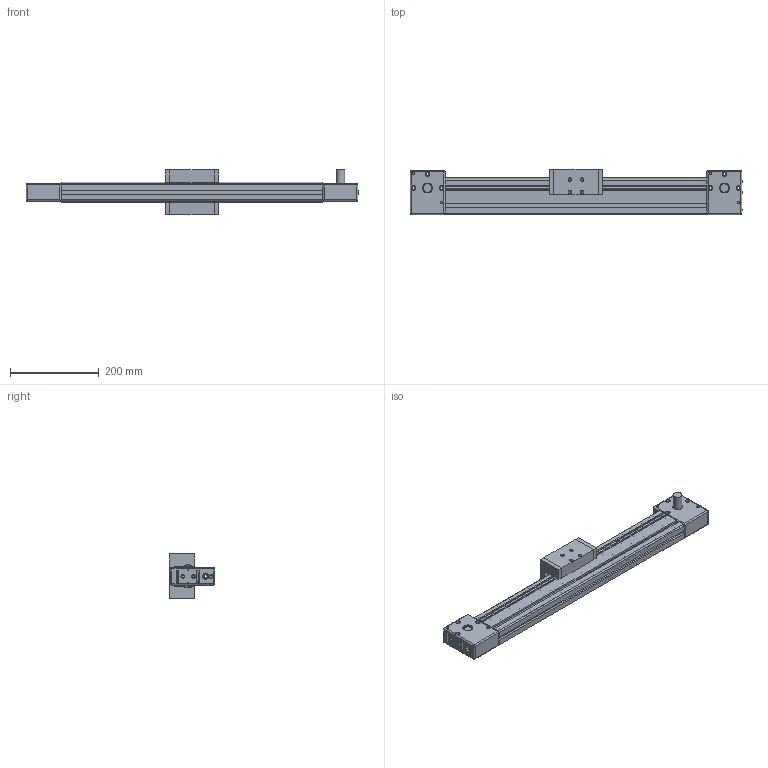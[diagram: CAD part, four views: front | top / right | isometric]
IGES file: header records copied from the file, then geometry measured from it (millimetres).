
Start section: SolidWorks IGES file using analytic representation for surfaces
Global section: file name: C:\Users\render\Documents\CAD Files\Integrated-Actuators\MACRON\MSA-M6S\M6S.IGS; native system: SolidWorks 2009; preprocessor: SolidWorks 2009; author: render; date: 100607.152102; units: millimetre
Bounding box: 750 x 102 x 103.3 mm (x, y, z)
Surface area: 798382.1 mm2 (no closed solid volume)
Topology: 0 solids, 0 shells, 568 faces, 8274 edges, 8250 vertices
Faces by surface type: bspline 293, revolution 275
